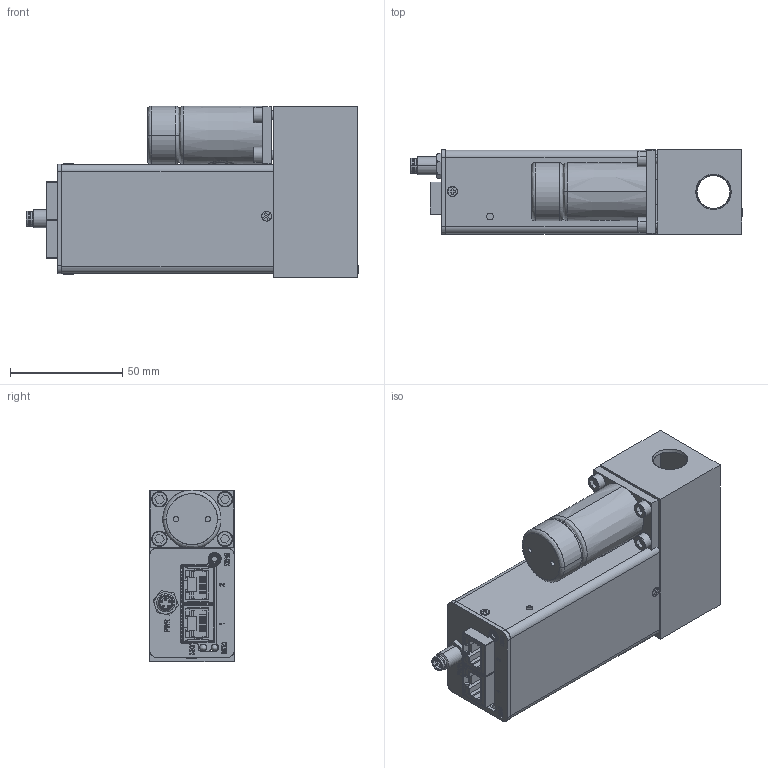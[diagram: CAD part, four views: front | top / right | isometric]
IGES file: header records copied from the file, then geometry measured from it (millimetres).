
Start section: SolidWorks IGES file using analytic representation for surfaces
Global section: file name: G:\Engineering\CAD MODELS FOR SALES\CAD MODEL STORAGE\SLA\SLA5850\IGES\SLA5850-8-1A-1-A-REVB.IGS; native system: SolidWorks 2020; preprocessor: SolidWorks 2020; author: SThen; date: 210819.133952; units: inch
Bounding box: 147.97 x 38.07 x 76.56 mm (x, y, z)
Surface area: 84139.2 mm2 (no closed solid volume)
Topology: 0 solids, 0 shells, 1687 faces, 15910 edges, 15862 vertices
Faces by surface type: bspline 1261, revolution 426
